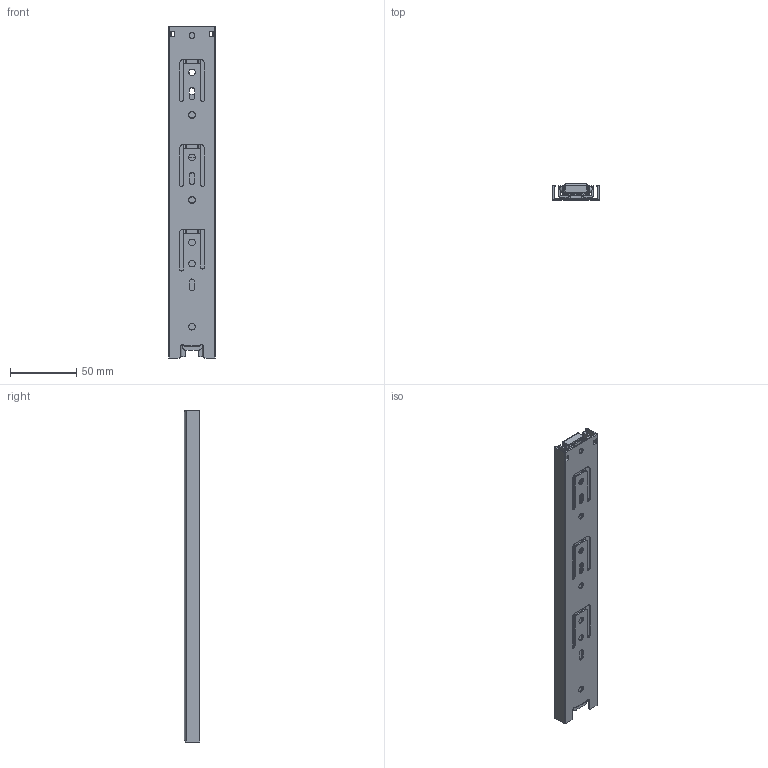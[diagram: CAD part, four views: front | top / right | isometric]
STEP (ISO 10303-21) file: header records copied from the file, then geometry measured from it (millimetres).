
FILE_DESCRIPTION(/* description */ (''),/* implementation_level */ '2;1');
FILE_NAME(/* name */ 'C:\Users\dmitruk\Documents\WORK\\X2\041D0410041F042004100412041B042F042E042904180415\X0\\Шариковые\h35 L-250 AKS LIGHT.stp',/* time_stamp */ '2020-07-27T15:04:13+03:00',/* author */ ('dmitruk'),/* organization */ (''),/* preprocessor_version */ 'ST-DEVELOPER v16.5',/* originating_system */ 'Autodesk Inventor 2017',/* authorisation */ '');
FILE_SCHEMA (('AUTOMOTIVE_DESIGN { 1 0 10303 214 3 1 1 }'));
Length unit declared in the file: millimetre
Products named in the file (5): h35 L-250 AKS LIGHT; h35 L-250 AKS_11; h35 L-250 AKS_12; h35 L-250_13; h35 L-250 AKS_2
Assembly tree (4 placements, depth 2):
  h35 L-250 AKS LIGHT
    h35 L-250 AKS_11
    h35 L-250 AKS_12
    h35 L-250_13
    h35 L-250 AKS_2
Bounding box: 35 x 12.02 x 250 mm (x, y, z)
Volume: 32873.1 mm3; surface area: 66103.6 mm2
Topology: 4 solids, 4 shells, 437 faces, 1310 edges, 924 vertices
Faces by surface type: plane 235, cylinder 178, sphere 24
Full cylindrical faces by diameter (mm): 4.5 x3, 4.9 x7
Entity records: 15201 total; most frequent: CARTESIAN_POINT 2806, DIRECTION 2611, ORIENTED_EDGE 2510, EDGE_CURVE 1255, AXIS2_PLACEMENT_3D 880, LINE 851, VECTOR 851, VERTEX_POINT 835
